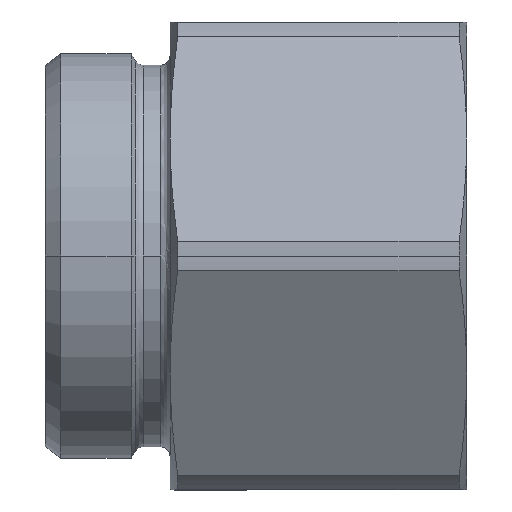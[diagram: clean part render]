
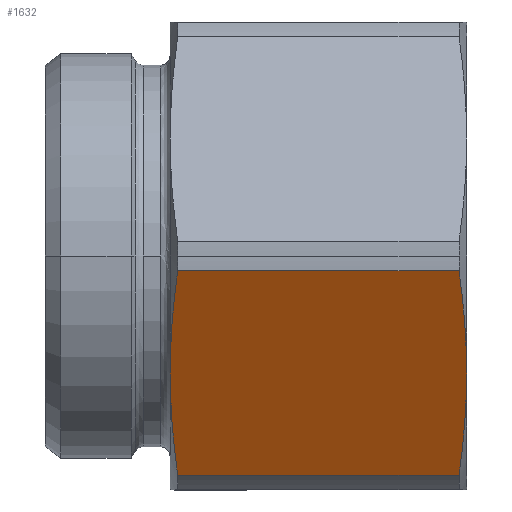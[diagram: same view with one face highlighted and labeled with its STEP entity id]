
A CAD part, front view. The second image highlights one B-rep face of the part: STEP entity #1632.
In plain terms, the highlighted planar face has unit normal (0, -0.866, -0.5) as drawn and (-0.5, -0.866, 0) by its records, which use the part's own axes.
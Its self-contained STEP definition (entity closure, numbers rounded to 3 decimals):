
#151=CARTESIAN_POINT('',(-1.896,-33.546,18.035));
#152=VERTEX_POINT('',#151);
#160=CARTESIAN_POINT('',(-1.896,-33.546,-18.035));
#161=VERTEX_POINT('',#160);
#162=CARTESIAN_POINT('',(-1.896,-33.546,18.035));
#163=DIRECTION('',(0.0,0.0,-1.0));
#164=VECTOR('',#163,36.071);
#165=LINE('',#162,#164);
#166=EDGE_CURVE('',#152,#161,#165,.T.);
#1286=CARTESIAN_POINT('',(-15.,-25.981,19.0));
#1287=VERTEX_POINT('',#1286);
#1474=CARTESIAN_POINT('',(-28.104,-18.415,18.035));
#1475=VERTEX_POINT('',#1474);
#1493=CARTESIAN_POINT('',(-28.104,-18.415,-18.035));
#1494=VERTEX_POINT('',#1493);
#1502=CARTESIAN_POINT('',(-28.104,-18.415,-18.035));
#1503=DIRECTION('',(0.0,0.0,1.0));
#1504=VECTOR('',#1503,36.071);
#1505=LINE('',#1502,#1504);
#1506=EDGE_CURVE('',#1494,#1475,#1505,.T.);
#1564=CARTESIAN_POINT('',(-1.896,-33.546,18.035));
#1565=CARTESIAN_POINT('',(-8.819,-29.549,19.));
#1566=CARTESIAN_POINT('',(-15.,-25.981,19.0));
#1574=(BOUNDED_CURVE()B_SPLINE_CURVE(2,(#1564,#1565,#1566),.UNSPECIFIED.,.F.,.U.)B_SPLINE_CURVE_WITH_KNOTS((3,3),(13.012,29.602),.UNSPECIFIED.)CURVE()GEOMETRIC_REPRESENTATION_ITEM()RATIONAL_B_SPLINE_CURVE((1.047,1.053,1.0))REPRESENTATION_ITEM(''));
#1575=EDGE_CURVE('',#152,#1287,#1574,.T.);
#1581=CARTESIAN_POINT('',(-30.,-17.321,0.0));
#1582=DIRECTION('',(-0.5,-0.866,0.0));
#1583=DIRECTION('',(0.0,0.0,-1.0));
#1584=AXIS2_PLACEMENT_3D('',#1581,#1582,#1583);
#1585=PLANE('',#1584);
#1586=ORIENTED_EDGE('',*,*,#166,.F.);
#1587=ORIENTED_EDGE('',*,*,#1575,.T.);
#1588=CARTESIAN_POINT('',(-15.,-25.981,19.0));
#1589=CARTESIAN_POINT('',(-21.181,-22.412,19.));
#1590=CARTESIAN_POINT('',(-28.104,-18.415,18.035));
#1598=(BOUNDED_CURVE()B_SPLINE_CURVE(2,(#1588,#1589,#1590),.UNSPECIFIED.,.F.,.U.)B_SPLINE_CURVE_WITH_KNOTS((3,3),(29.602,46.193),.UNSPECIFIED.)CURVE()GEOMETRIC_REPRESENTATION_ITEM()RATIONAL_B_SPLINE_CURVE((1.0,1.053,1.047))REPRESENTATION_ITEM(''));
#1599=EDGE_CURVE('',#1287,#1475,#1598,.T.);
#1600=ORIENTED_EDGE('',*,*,#1599,.T.);
#1601=ORIENTED_EDGE('',*,*,#1506,.F.);
#1602=CARTESIAN_POINT('',(-15.,-25.981,-19.0));
#1603=VERTEX_POINT('',#1602);
#1604=CARTESIAN_POINT('',(-28.104,-18.415,-18.035));
#1605=CARTESIAN_POINT('',(-21.181,-22.412,-19.));
#1606=CARTESIAN_POINT('',(-15.,-25.981,-19.0));
#1614=(BOUNDED_CURVE()B_SPLINE_CURVE(2,(#1604,#1605,#1606),.UNSPECIFIED.,.F.,.U.)B_SPLINE_CURVE_WITH_KNOTS((3,3),(13.012,29.602),.UNSPECIFIED.)CURVE()GEOMETRIC_REPRESENTATION_ITEM()RATIONAL_B_SPLINE_CURVE((1.047,1.053,1.0))REPRESENTATION_ITEM(''));
#1615=EDGE_CURVE('',#1494,#1603,#1614,.T.);
#1616=ORIENTED_EDGE('',*,*,#1615,.T.);
#1617=CARTESIAN_POINT('',(-15.,-25.981,-19.0));
#1618=CARTESIAN_POINT('',(-8.819,-29.549,-19.0));
#1619=CARTESIAN_POINT('',(-1.896,-33.546,-18.035));
#1627=(BOUNDED_CURVE()B_SPLINE_CURVE(2,(#1617,#1618,#1619),.UNSPECIFIED.,.F.,.U.)B_SPLINE_CURVE_WITH_KNOTS((3,3),(29.602,46.193),.UNSPECIFIED.)CURVE()GEOMETRIC_REPRESENTATION_ITEM()RATIONAL_B_SPLINE_CURVE((1.0,1.053,1.047))REPRESENTATION_ITEM(''));
#1628=EDGE_CURVE('',#1603,#161,#1627,.T.);
#1629=ORIENTED_EDGE('',*,*,#1628,.T.);
#1630=EDGE_LOOP('',(#1586,#1587,#1600,#1601,#1616,#1629));
#1631=FACE_OUTER_BOUND('',#1630,.T.);
#1632=ADVANCED_FACE('',(#1631),#1585,.T.);
